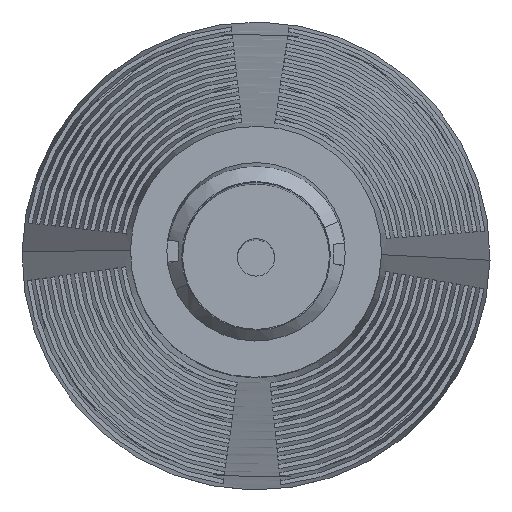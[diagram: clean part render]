
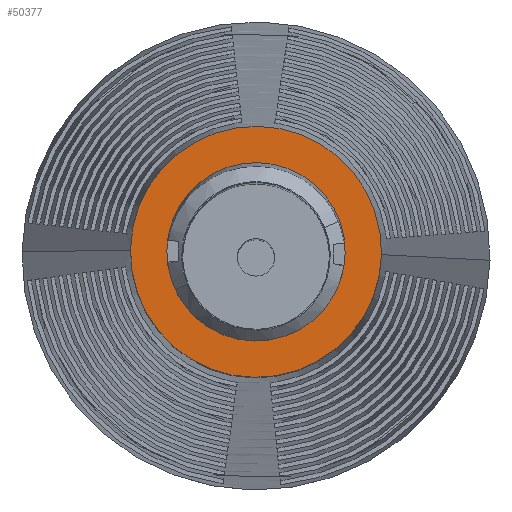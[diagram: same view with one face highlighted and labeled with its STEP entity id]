
A CAD part, top view. The second image highlights one B-rep face of the part: STEP entity #50377.
In plain terms, the highlighted planar face has unit normal (0, 0, 1).
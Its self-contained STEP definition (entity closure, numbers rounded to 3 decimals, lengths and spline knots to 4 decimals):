
#2660 = CIRCLE ( 'NONE', #6554, 1.525 ) ;
#6275 = AXIS2_PLACEMENT_3D ( 'NONE', #146288, #143846, #240630 ) ;
#6554 = AXIS2_PLACEMENT_3D ( 'NONE', #15597, #13147, #51640 ) ;
#7575 = ORIENTED_EDGE ( 'NONE', *, *, #72252, .T. ) ;
#13147 = DIRECTION ( 'NONE',  ( 0., 0., -1. ) ) ;
#14673 = CARTESIAN_POINT ( 'NONE',  ( -2.1447, 0.0386, 65.293 ) ) ;
#15597 = CARTESIAN_POINT ( 'NONE',  ( 0., 0., 65.293 ) ) ;
#20108 = CARTESIAN_POINT ( 'NONE',  ( 2.1447, -0.0386, 65.293 ) ) ;
#25287 = EDGE_CURVE ( 'NONE', #206047, #44974, #2660, .T. ) ;
#33226 = AXIS2_PLACEMENT_3D ( 'NONE', #233143, #195860, #101560 ) ;
#35034 = CARTESIAN_POINT ( 'NONE',  ( 0., 0., 65.293 ) ) ;
#36318 = AXIS2_PLACEMENT_3D ( 'NONE', #35034, #56036, #77128 ) ;
#37949 = PLANE ( 'NONE',  #221181 ) ;
#44974 = VERTEX_POINT ( 'NONE', #210209 ) ;
#48174 = CIRCLE ( 'NONE', #36318, 2.145 ) ;
#50377 = ADVANCED_FACE ( 'NONE', ( #54096, #131030 ), #37949, .F. ) ;
#51640 = DIRECTION ( 'NONE',  ( -1., 0.018, 0. ) ) ;
#51645 = CARTESIAN_POINT ( 'NONE',  ( 0., 0., 65.293 ) ) ;
#54096 = FACE_BOUND ( 'NONE', #191233, .T. ) ;
#56036 = DIRECTION ( 'NONE',  ( 0., 0., -1. ) ) ;
#72252 = EDGE_CURVE ( 'NONE', #44974, #206047, #160994, .T. ) ;
#72708 = DIRECTION ( 'NONE',  ( -1., 0.018, 0. ) ) ;
#77128 = DIRECTION ( 'NONE',  ( -1., 0.018, 0. ) ) ;
#88360 = EDGE_CURVE ( 'NONE', #237503, #236023, #48174, .T. ) ;
#93806 = DIRECTION ( 'NONE',  ( 0., 0., -1. ) ) ;
#101560 = DIRECTION ( 'NONE',  ( -1., 0.018, 0. ) ) ;
#131030 = FACE_OUTER_BOUND ( 'NONE', #215286, .T. ) ;
#142822 = ORIENTED_EDGE ( 'NONE', *, *, #88360, .F. ) ;
#143846 = DIRECTION ( 'NONE',  ( 0., 0., -1. ) ) ;
#146288 = CARTESIAN_POINT ( 'NONE',  ( 0., 0., 65.293 ) ) ;
#148443 = ORIENTED_EDGE ( 'NONE', *, *, #25287, .T. ) ;
#156487 = ORIENTED_EDGE ( 'NONE', *, *, #185965, .F. ) ;
#160994 = CIRCLE ( 'NONE', #6275, 1.525 ) ;
#185965 = EDGE_CURVE ( 'NONE', #236023, #237503, #188259, .T. ) ;
#188259 = CIRCLE ( 'NONE', #33226, 2.145 ) ;
#191233 = EDGE_LOOP ( 'NONE', ( #7575, #148443 ) ) ;
#195860 = DIRECTION ( 'NONE',  ( 0., 0., -1. ) ) ;
#206047 = VERTEX_POINT ( 'NONE', #217086 ) ;
#210209 = CARTESIAN_POINT ( 'NONE',  ( -1.5248, 0.0274, 65.293 ) ) ;
#215286 = EDGE_LOOP ( 'NONE', ( #142822, #156487 ) ) ;
#217086 = CARTESIAN_POINT ( 'NONE',  ( 1.5248, -0.0274, 65.293 ) ) ;
#221181 = AXIS2_PLACEMENT_3D ( 'NONE', #51645, #93806, #72708 ) ;
#233143 = CARTESIAN_POINT ( 'NONE',  ( 0., 0., 65.293 ) ) ;
#236023 = VERTEX_POINT ( 'NONE', #20108 ) ;
#237503 = VERTEX_POINT ( 'NONE', #14673 ) ;
#240630 = DIRECTION ( 'NONE',  ( -1., 0.018, 0. ) ) ;
